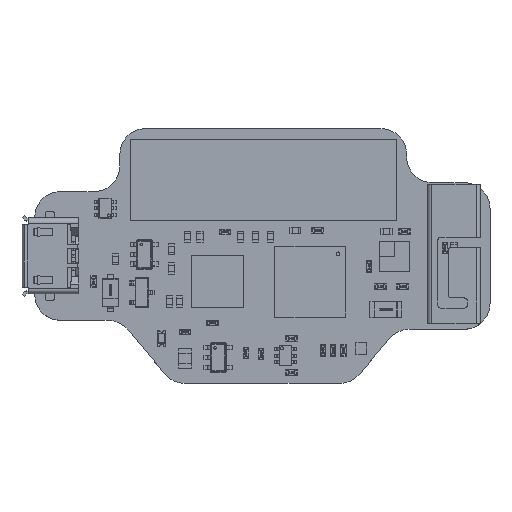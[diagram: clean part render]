
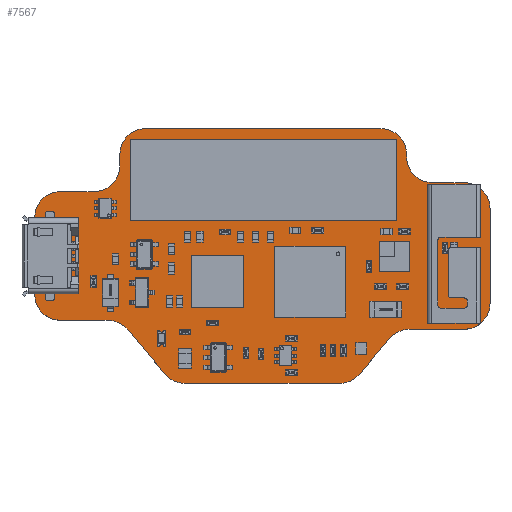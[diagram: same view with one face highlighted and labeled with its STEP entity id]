
A CAD part, top view. The second image highlights one B-rep face of the part: STEP entity #7567.
In plain terms, the highlighted planar face has unit normal (0, 0, 1).
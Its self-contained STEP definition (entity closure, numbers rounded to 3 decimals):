
#6774 = VERTEX_POINT('',#6775);
#6775 = CARTESIAN_POINT('',(2.54,6.223,0.));
#6781 = EDGE_CURVE('',#6774,#6782,#6784,.T.);
#6782 = VERTEX_POINT('',#6783);
#6783 = CARTESIAN_POINT('',(7.239,6.223,0.));
#6784 = LINE('',#6785,#6786);
#6785 = CARTESIAN_POINT('',(2.54,6.223,0.));
#6786 = VECTOR('',#6787,1.);
#6787 = DIRECTION('',(1.,0.,0.));
#6812 = EDGE_CURVE('',#6782,#6813,#6815,.T.);
#6813 = VERTEX_POINT('',#6814);
#6814 = CARTESIAN_POINT('',(9.271,5.207,0.));
#6815 = CIRCLE('',#6816,2.539);
#6816 = AXIS2_PLACEMENT_3D('',#6817,#6818,#6819);
#6817 = CARTESIAN_POINT('',(7.24,3.684,0.));
#6818 = DIRECTION('',(0.,0.,-1.));
#6819 = DIRECTION('',(0.,1.,0.));
#6845 = EDGE_CURVE('',#6813,#6846,#6848,.T.);
#6846 = VERTEX_POINT('',#6847);
#6847 = CARTESIAN_POINT('',(12.877,0.907,0.));
#6848 = LINE('',#6849,#6850);
#6849 = CARTESIAN_POINT('',(9.271,5.207,0.));
#6850 = VECTOR('',#6851,1.);
#6851 = DIRECTION('',(0.643,-0.766,0.));
#6876 = EDGE_CURVE('',#6846,#6877,#6879,.T.);
#6877 = VERTEX_POINT('',#6878);
#6878 = CARTESIAN_POINT('',(14.884,0.,0.)
  );
#6879 = CIRCLE('',#6880,2.538);
#6880 = AXIS2_PLACEMENT_3D('',#6881,#6882,#6883);
#6881 = CARTESIAN_POINT('',(14.822,2.537,0.));
#6882 = DIRECTION('',(0.,0.,1.));
#6883 = DIRECTION('',(-0.766,-0.642,0.));
#6909 = EDGE_CURVE('',#6877,#6910,#6912,.T.);
#6910 = VERTEX_POINT('',#6911);
#6911 = CARTESIAN_POINT('',(30.074,0.,0.));
#6912 = LINE('',#6913,#6914);
#6913 = CARTESIAN_POINT('',(14.884,0.,0.));
#6914 = VECTOR('',#6915,1.);
#6915 = DIRECTION('',(1.,0.,0.));
#6940 = EDGE_CURVE('',#6910,#6941,#6943,.T.);
#6941 = VERTEX_POINT('',#6942);
#6942 = CARTESIAN_POINT('',(32.069,0.895,0.));
#6943 = CIRCLE('',#6944,2.531);
#6944 = AXIS2_PLACEMENT_3D('',#6945,#6946,#6947);
#6945 = CARTESIAN_POINT('',(30.137,2.53,0.));
#6946 = DIRECTION('',(0.,0.,1.));
#6947 = DIRECTION('',(-0.025,-1.,0.));
#6973 = EDGE_CURVE('',#6941,#6974,#6976,.T.);
#6974 = VERTEX_POINT('',#6975);
#6975 = CARTESIAN_POINT('',(34.95,4.318,0.));
#6976 = LINE('',#6977,#6978);
#6977 = CARTESIAN_POINT('',(32.069,0.895,0.));
#6978 = VECTOR('',#6979,1.);
#6979 = DIRECTION('',(0.644,0.765,0.));
#7004 = EDGE_CURVE('',#6974,#7005,#7007,.T.);
#7005 = VERTEX_POINT('',#7006);
#7006 = CARTESIAN_POINT('',(36.982,5.334,0.));
#7007 = CIRCLE('',#7008,2.539);
#7008 = AXIS2_PLACEMENT_3D('',#7009,#7010,#7011);
#7009 = CARTESIAN_POINT('',(36.981,2.795,0.));
#7010 = DIRECTION('',(0.,0.,-1.));
#7011 = DIRECTION('',(-0.8,0.6,0.));
#7037 = EDGE_CURVE('',#7005,#7038,#7040,.T.);
#7038 = VERTEX_POINT('',#7039);
#7039 = CARTESIAN_POINT('',(42.418,5.334,0.));
#7040 = LINE('',#7041,#7042);
#7041 = CARTESIAN_POINT('',(36.982,5.334,0.));
#7042 = VECTOR('',#7043,1.);
#7043 = DIRECTION('',(1.,0.,0.));
#7068 = EDGE_CURVE('',#7038,#7069,#7071,.T.);
#7069 = VERTEX_POINT('',#7070);
#7070 = CARTESIAN_POINT('',(44.958,7.874,0.));
#7071 = CIRCLE('',#7072,2.54);
#7072 = AXIS2_PLACEMENT_3D('',#7073,#7074,#7075);
#7073 = CARTESIAN_POINT('',(42.418,7.874,0.));
#7074 = DIRECTION('',(0.,0.,1.));
#7075 = DIRECTION('',(0.,-1.,0.));
#7101 = EDGE_CURVE('',#7069,#7102,#7104,.T.);
#7102 = VERTEX_POINT('',#7103);
#7103 = CARTESIAN_POINT('',(44.958,17.272,0.));
#7104 = LINE('',#7105,#7106);
#7105 = CARTESIAN_POINT('',(44.958,7.874,0.));
#7106 = VECTOR('',#7107,1.);
#7107 = DIRECTION('',(0.,1.,0.));
#7132 = EDGE_CURVE('',#7102,#7133,#7135,.T.);
#7133 = VERTEX_POINT('',#7134);
#7134 = CARTESIAN_POINT('',(42.418,19.812,0.));
#7135 = CIRCLE('',#7136,2.54);
#7136 = AXIS2_PLACEMENT_3D('',#7137,#7138,#7139);
#7137 = CARTESIAN_POINT('',(42.418,17.272,0.));
#7138 = DIRECTION('',(0.,0.,1.));
#7139 = DIRECTION('',(1.,0.,0.));
#7165 = EDGE_CURVE('',#7133,#7166,#7168,.T.);
#7166 = VERTEX_POINT('',#7167);
#7167 = CARTESIAN_POINT('',(39.268,19.812,0.));
#7168 = LINE('',#7169,#7170);
#7169 = CARTESIAN_POINT('',(42.418,19.812,0.));
#7170 = VECTOR('',#7171,1.);
#7171 = DIRECTION('',(-1.,0.,0.));
#7196 = EDGE_CURVE('',#7166,#7197,#7199,.T.);
#7197 = VERTEX_POINT('',#7198);
#7198 = CARTESIAN_POINT('',(36.728,22.352,0.));
#7199 = CIRCLE('',#7200,2.54);
#7200 = AXIS2_PLACEMENT_3D('',#7201,#7202,#7203);
#7201 = CARTESIAN_POINT('',(39.268,22.352,0.));
#7202 = DIRECTION('',(0.,0.,-1.));
#7203 = DIRECTION('',(0.,-1.,0.));
#7229 = EDGE_CURVE('',#7197,#7230,#7232,.T.);
#7230 = VERTEX_POINT('',#7231);
#7231 = CARTESIAN_POINT('',(36.728,22.606,0.));
#7232 = LINE('',#7233,#7234);
#7233 = CARTESIAN_POINT('',(36.728,22.352,0.));
#7234 = VECTOR('',#7235,1.);
#7235 = DIRECTION('',(0.,1.,0.));
#7260 = EDGE_CURVE('',#7230,#7261,#7263,.T.);
#7261 = VERTEX_POINT('',#7262);
#7262 = CARTESIAN_POINT('',(34.188,25.146,0.));
#7263 = CIRCLE('',#7264,2.54);
#7264 = AXIS2_PLACEMENT_3D('',#7265,#7266,#7267);
#7265 = CARTESIAN_POINT('',(34.188,22.606,0.));
#7266 = DIRECTION('',(0.,0.,1.));
#7267 = DIRECTION('',(1.,0.,0.));
#7293 = EDGE_CURVE('',#7261,#7294,#7296,.T.);
#7294 = VERTEX_POINT('',#7295);
#7295 = CARTESIAN_POINT('',(10.947,25.146,0.));
#7296 = LINE('',#7297,#7298);
#7297 = CARTESIAN_POINT('',(34.188,25.146,0.));
#7298 = VECTOR('',#7299,1.);
#7299 = DIRECTION('',(-1.,0.,0.));
#7324 = EDGE_CURVE('',#7294,#7325,#7327,.T.);
#7325 = VERTEX_POINT('',#7326);
#7326 = CARTESIAN_POINT('',(8.407,22.606,0.));
#7327 = CIRCLE('',#7328,2.54);
#7328 = AXIS2_PLACEMENT_3D('',#7329,#7330,#7331);
#7329 = CARTESIAN_POINT('',(10.947,22.606,0.));
#7330 = DIRECTION('',(0.,0.,1.));
#7331 = DIRECTION('',(0.,1.,0.));
#7357 = EDGE_CURVE('',#7325,#7358,#7360,.T.);
#7358 = VERTEX_POINT('',#7359);
#7359 = CARTESIAN_POINT('',(8.407,21.463,0.));
#7360 = LINE('',#7361,#7362);
#7361 = CARTESIAN_POINT('',(8.407,22.606,0.));
#7362 = VECTOR('',#7363,1.);
#7363 = DIRECTION('',(0.,-1.,0.));
#7388 = EDGE_CURVE('',#7358,#7389,#7391,.T.);
#7389 = VERTEX_POINT('',#7390);
#7390 = CARTESIAN_POINT('',(5.867,18.923,0.));
#7391 = CIRCLE('',#7392,2.54);
#7392 = AXIS2_PLACEMENT_3D('',#7393,#7394,#7395);
#7393 = CARTESIAN_POINT('',(5.867,21.463,0.));
#7394 = DIRECTION('',(0.,0.,-1.));
#7395 = DIRECTION('',(1.,0.,0.));
#7421 = EDGE_CURVE('',#7389,#7422,#7424,.T.);
#7422 = VERTEX_POINT('',#7423);
#7423 = CARTESIAN_POINT('',(2.54,18.923,0.));
#7424 = LINE('',#7425,#7426);
#7425 = CARTESIAN_POINT('',(5.867,18.923,0.));
#7426 = VECTOR('',#7427,1.);
#7427 = DIRECTION('',(-1.,0.,0.));
#7452 = EDGE_CURVE('',#7422,#7453,#7455,.T.);
#7453 = VERTEX_POINT('',#7454);
#7454 = CARTESIAN_POINT('',(0.,16.383,0.)
  );
#7455 = CIRCLE('',#7456,2.54);
#7456 = AXIS2_PLACEMENT_3D('',#7457,#7458,#7459);
#7457 = CARTESIAN_POINT('',(2.54,16.383,0.));
#7458 = DIRECTION('',(0.,0.,1.));
#7459 = DIRECTION('',(0.,1.,0.));
#7485 = EDGE_CURVE('',#7453,#7486,#7488,.T.);
#7486 = VERTEX_POINT('',#7487);
#7487 = CARTESIAN_POINT('',(0.,8.763,0.)
  );
#7488 = LINE('',#7489,#7490);
#7489 = CARTESIAN_POINT('',(0.,16.383,0.));
#7490 = VECTOR('',#7491,1.);
#7491 = DIRECTION('',(0.,-1.,0.));
#7516 = EDGE_CURVE('',#7486,#6774,#7517,.T.);
#7517 = CIRCLE('',#7518,2.54);
#7518 = AXIS2_PLACEMENT_3D('',#7519,#7520,#7521);
#7519 = CARTESIAN_POINT('',(2.54,8.763,0.));
#7520 = DIRECTION('',(0.,0.,1.));
#7521 = DIRECTION('',(-1.,0.,0.));
#7567 = ADVANCED_FACE('',(#7568),#7594,.T.);
#7568 = FACE_BOUND('',#7569,.T.);
#7569 = EDGE_LOOP('',(#7570,#7571,#7572,#7573,#7574,#7575,#7576,#7577,
    #7578,#7579,#7580,#7581,#7582,#7583,#7584,#7585,#7586,#7587,#7588,
    #7589,#7590,#7591,#7592,#7593));
#7570 = ORIENTED_EDGE('',*,*,#6781,.T.);
#7571 = ORIENTED_EDGE('',*,*,#6812,.T.);
#7572 = ORIENTED_EDGE('',*,*,#6845,.T.);
#7573 = ORIENTED_EDGE('',*,*,#6876,.T.);
#7574 = ORIENTED_EDGE('',*,*,#6909,.T.);
#7575 = ORIENTED_EDGE('',*,*,#6940,.T.);
#7576 = ORIENTED_EDGE('',*,*,#6973,.T.);
#7577 = ORIENTED_EDGE('',*,*,#7004,.T.);
#7578 = ORIENTED_EDGE('',*,*,#7037,.T.);
#7579 = ORIENTED_EDGE('',*,*,#7068,.T.);
#7580 = ORIENTED_EDGE('',*,*,#7101,.T.);
#7581 = ORIENTED_EDGE('',*,*,#7132,.T.);
#7582 = ORIENTED_EDGE('',*,*,#7165,.T.);
#7583 = ORIENTED_EDGE('',*,*,#7196,.T.);
#7584 = ORIENTED_EDGE('',*,*,#7229,.T.);
#7585 = ORIENTED_EDGE('',*,*,#7260,.T.);
#7586 = ORIENTED_EDGE('',*,*,#7293,.T.);
#7587 = ORIENTED_EDGE('',*,*,#7324,.T.);
#7588 = ORIENTED_EDGE('',*,*,#7357,.T.);
#7589 = ORIENTED_EDGE('',*,*,#7388,.T.);
#7590 = ORIENTED_EDGE('',*,*,#7421,.T.);
#7591 = ORIENTED_EDGE('',*,*,#7452,.T.);
#7592 = ORIENTED_EDGE('',*,*,#7485,.T.);
#7593 = ORIENTED_EDGE('',*,*,#7516,.T.);
#7594 = PLANE('',#7595);
#7595 = AXIS2_PLACEMENT_3D('',#7596,#7597,#7598);
#7596 = CARTESIAN_POINT('',(2.54,6.223,0.));
#7597 = DIRECTION('',(0.,0.,1.));
#7598 = DIRECTION('',(1.,0.,0.));
